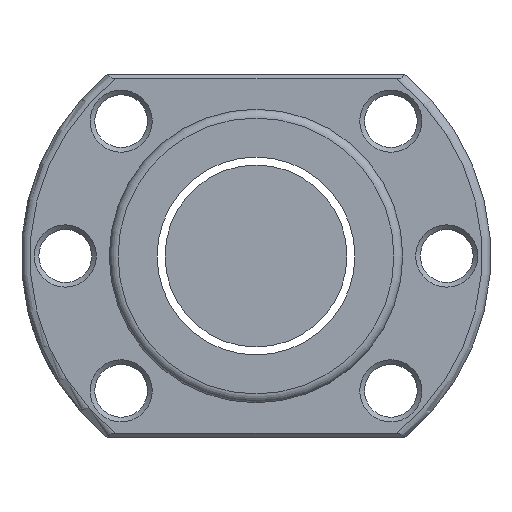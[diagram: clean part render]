
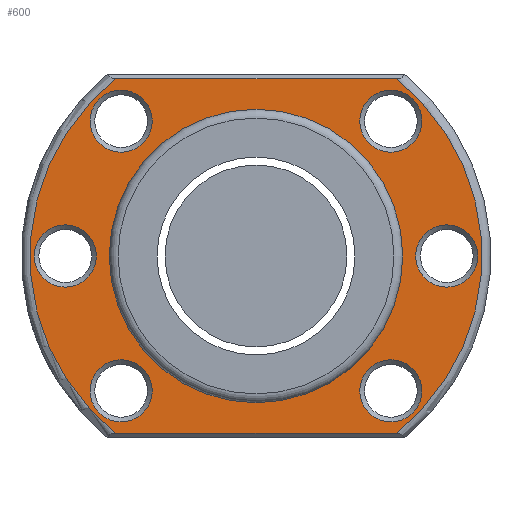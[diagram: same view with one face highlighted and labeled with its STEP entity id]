
A CAD part, left-side view. The second image highlights one B-rep face of the part: STEP entity #600.
In plain terms, the highlighted planar face has unit normal (-1, 0, 0).
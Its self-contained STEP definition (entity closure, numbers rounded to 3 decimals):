
#24 = EDGE_CURVE ( 'NONE', #682, #891, #279, .T. ) ;
#33 = CARTESIAN_POINT ( 'NONE',  ( -101., 22.981, -17.681 ) ) ;
#91 = VERTEX_POINT ( 'NONE', #439 ) ;
#98 = FACE_BOUND ( 'NONE', #1903, .T. ) ;
#169 = FACE_BOUND ( 'NONE', #1653, .T. ) ;
#186 = LINE ( 'NONE', #1170, #2194 ) ;
#279 = CIRCLE ( 'NONE', #1413, 38.5 ) ;
#297 = CARTESIAN_POINT ( 'NONE',  ( -101., -22.981, -17.681 ) ) ;
#325 = AXIS2_PLACEMENT_3D ( 'NONE', #714, #2004, #1957 ) ;
#364 = CARTESIAN_POINT ( 'NONE',  ( -101., 40., 0. ) ) ;
#377 = AXIS2_PLACEMENT_3D ( 'NONE', #1410, #3186, #2938 ) ;
#380 = CIRCLE ( 'NONE', #2601, 5.3 ) ;
#388 = EDGE_LOOP ( 'NONE', ( #1193 ) ) ;
#393 = DIRECTION ( 'NONE',  ( 0., 0., -1. ) ) ;
#397 = DIRECTION ( 'NONE',  ( 1., 0., 0. ) ) ;
#403 = EDGE_CURVE ( 'NONE', #2251, #2251, #1357, .T. ) ;
#429 = FACE_BOUND ( 'NONE', #2690, .T. ) ;
#439 = CARTESIAN_POINT ( 'NONE',  ( -101., -32.5, 5.3 ) ) ;
#504 = EDGE_CURVE ( 'NONE', #2741, #2741, #2498, .T. ) ;
#527 = DIRECTION ( 'NONE',  ( 0., 0., 1. ) ) ;
#530 = EDGE_LOOP ( 'NONE', ( #1802 ) ) ;
#561 = DIRECTION ( 'NONE',  ( 0., 0., 1. ) ) ;
#600 = ADVANCED_FACE ( 'NONE', ( #2876, #169, #98, #2840, #1368, #429, #2855, #1124 ), #3108, .T. ) ;
#682 = VERTEX_POINT ( 'NONE', #1107 ) ;
#700 = VERTEX_POINT ( 'NONE', #1326 ) ;
#703 = EDGE_CURVE ( 'NONE', #3050, #3050, #2240, .T. ) ;
#714 = CARTESIAN_POINT ( 'NONE',  ( -101., 22.981, 22.981 ) ) ;
#780 = CARTESIAN_POINT ( 'NONE',  ( -101., -22.981, 28.281 ) ) ;
#791 = AXIS2_PLACEMENT_3D ( 'NONE', #1968, #1740, #2439 ) ;
#806 = CARTESIAN_POINT ( 'NONE',  ( -101., 0., 0. ) ) ;
#858 = ORIENTED_EDGE ( 'NONE', *, *, #1353, .T. ) ;
#891 = VERTEX_POINT ( 'NONE', #2472 ) ;
#901 = DIRECTION ( 'NONE',  ( -1., 0., 0. ) ) ;
#914 = DIRECTION ( 'NONE',  ( 0., 0., 1. ) ) ;
#999 = DIRECTION ( 'NONE',  ( -1., 0., 0. ) ) ;
#1107 = CARTESIAN_POINT ( 'NONE',  ( -101., 23.879, 30.2 ) ) ;
#1124 = FACE_OUTER_BOUND ( 'NONE', #3081, .T. ) ;
#1146 = VERTEX_POINT ( 'NONE', #2871 ) ;
#1164 = ORIENTED_EDGE ( 'NONE', *, *, #504, .T. ) ;
#1170 = CARTESIAN_POINT ( 'NONE',  ( -101., 40., -30.2 ) ) ;
#1193 = ORIENTED_EDGE ( 'NONE', *, *, #703, .T. ) ;
#1252 = CARTESIAN_POINT ( 'NONE',  ( -101., 22.981, 28.281 ) ) ;
#1263 = CIRCLE ( 'NONE', #791, 5.3 ) ;
#1306 = AXIS2_PLACEMENT_3D ( 'NONE', #1611, #397, #1645 ) ;
#1308 = VECTOR ( 'NONE', #2281, 1000. ) ;
#1326 = CARTESIAN_POINT ( 'NONE',  ( -101., 0., -25. ) ) ;
#1345 = CARTESIAN_POINT ( 'NONE',  ( -101., -32.5, 0. ) ) ;
#1353 = EDGE_CURVE ( 'NONE', #2555, #2555, #2287, .T. ) ;
#1357 = CIRCLE ( 'NONE', #377, 5.3 ) ;
#1368 = FACE_BOUND ( 'NONE', #388, .T. ) ;
#1398 = DIRECTION ( 'NONE',  ( 1., 0., 0. ) ) ;
#1410 = CARTESIAN_POINT ( 'NONE',  ( -101., 22.981, -22.981 ) ) ;
#1413 = AXIS2_PLACEMENT_3D ( 'NONE', #806, #1787, #561 ) ;
#1495 = ORIENTED_EDGE ( 'NONE', *, *, #2181, .T. ) ;
#1530 = CARTESIAN_POINT ( 'NONE',  ( -101., 32.5, 5.3 ) ) ;
#1546 = CARTESIAN_POINT ( 'NONE',  ( -101., 40., 30.2 ) ) ;
#1611 = CARTESIAN_POINT ( 'NONE',  ( -101., 32.5, 0. ) ) ;
#1625 = CARTESIAN_POINT ( 'NONE',  ( -101., 0., 0. ) ) ;
#1645 = DIRECTION ( 'NONE',  ( 0., 0., 1. ) ) ;
#1653 = EDGE_LOOP ( 'NONE', ( #1495 ) ) ;
#1656 = EDGE_CURVE ( 'NONE', #2510, #2510, #1263, .T. ) ;
#1679 = CIRCLE ( 'NONE', #2292, 38.5 ) ;
#1730 = CIRCLE ( 'NONE', #2452, 25. ) ;
#1740 = DIRECTION ( 'NONE',  ( 1., 0., 0. ) ) ;
#1783 = EDGE_CURVE ( 'NONE', #2081, #1146, #1679, .T. ) ;
#1787 = DIRECTION ( 'NONE',  ( -1., 0., 0. ) ) ;
#1802 = ORIENTED_EDGE ( 'NONE', *, *, #2050, .T. ) ;
#1881 = EDGE_CURVE ( 'NONE', #1146, #682, #3176, .T. ) ;
#1903 = EDGE_LOOP ( 'NONE', ( #1164 ) ) ;
#1915 = DIRECTION ( 'NONE',  ( 0., -1., 0. ) ) ;
#1957 = DIRECTION ( 'NONE',  ( 0., 0., 1. ) ) ;
#1968 = CARTESIAN_POINT ( 'NONE',  ( -101., -22.981, -22.981 ) ) ;
#1983 = AXIS2_PLACEMENT_3D ( 'NONE', #364, #901, #2141 ) ;
#2004 = DIRECTION ( 'NONE',  ( 1., 0., 0. ) ) ;
#2050 = EDGE_CURVE ( 'NONE', #700, #700, #1730, .T. ) ;
#2081 = VERTEX_POINT ( 'NONE', #2625 ) ;
#2141 = DIRECTION ( 'NONE',  ( 0., 0., 1. ) ) ;
#2147 = ORIENTED_EDGE ( 'NONE', *, *, #1881, .T. ) ;
#2181 = EDGE_CURVE ( 'NONE', #91, #91, #380, .T. ) ;
#2194 = VECTOR ( 'NONE', #1915, 1000. ) ;
#2239 = DIRECTION ( 'NONE',  ( 0., 0., 1. ) ) ;
#2240 = CIRCLE ( 'NONE', #1306, 5.3 ) ;
#2251 = VERTEX_POINT ( 'NONE', #33 ) ;
#2271 = CARTESIAN_POINT ( 'NONE',  ( -101., -22.981, 22.981 ) ) ;
#2281 = DIRECTION ( 'NONE',  ( 0., 1., 0. ) ) ;
#2287 = CIRCLE ( 'NONE', #325, 5.3 ) ;
#2288 = DIRECTION ( 'NONE',  ( 1., 0., 0. ) ) ;
#2292 = AXIS2_PLACEMENT_3D ( 'NONE', #2947, #999, #2239 ) ;
#2359 = EDGE_CURVE ( 'NONE', #891, #2081, #186, .T. ) ;
#2404 = ORIENTED_EDGE ( 'NONE', *, *, #403, .T. ) ;
#2412 = ORIENTED_EDGE ( 'NONE', *, *, #24, .T. ) ;
#2439 = DIRECTION ( 'NONE',  ( 0., 0., 1. ) ) ;
#2452 = AXIS2_PLACEMENT_3D ( 'NONE', #1625, #2890, #393 ) ;
#2472 = CARTESIAN_POINT ( 'NONE',  ( -101., 23.879, -30.2 ) ) ;
#2498 = CIRCLE ( 'NONE', #3019, 5.3 ) ;
#2510 = VERTEX_POINT ( 'NONE', #297 ) ;
#2555 = VERTEX_POINT ( 'NONE', #1252 ) ;
#2601 = AXIS2_PLACEMENT_3D ( 'NONE', #1345, #1398, #914 ) ;
#2625 = CARTESIAN_POINT ( 'NONE',  ( -101., -23.879, -30.2 ) ) ;
#2690 = EDGE_LOOP ( 'NONE', ( #2404 ) ) ;
#2741 = VERTEX_POINT ( 'NONE', #780 ) ;
#2782 = EDGE_LOOP ( 'NONE', ( #2883 ) ) ;
#2840 = FACE_BOUND ( 'NONE', #3097, .T. ) ;
#2855 = FACE_BOUND ( 'NONE', #530, .T. ) ;
#2871 = CARTESIAN_POINT ( 'NONE',  ( -101., -23.879, 30.2 ) ) ;
#2876 = FACE_BOUND ( 'NONE', #2782, .T. ) ;
#2883 = ORIENTED_EDGE ( 'NONE', *, *, #1656, .T. ) ;
#2885 = ORIENTED_EDGE ( 'NONE', *, *, #1783, .T. ) ;
#2890 = DIRECTION ( 'NONE',  ( 1., 0., 0. ) ) ;
#2938 = DIRECTION ( 'NONE',  ( 0., 0., 1. ) ) ;
#2947 = CARTESIAN_POINT ( 'NONE',  ( -101., 0., 0. ) ) ;
#3019 = AXIS2_PLACEMENT_3D ( 'NONE', #2271, #2288, #527 ) ;
#3031 = ORIENTED_EDGE ( 'NONE', *, *, #2359, .T. ) ;
#3050 = VERTEX_POINT ( 'NONE', #1530 ) ;
#3081 = EDGE_LOOP ( 'NONE', ( #2412, #3031, #2885, #2147 ) ) ;
#3097 = EDGE_LOOP ( 'NONE', ( #858 ) ) ;
#3108 = PLANE ( 'NONE',  #1983 ) ;
#3176 = LINE ( 'NONE', #1546, #1308 ) ;
#3186 = DIRECTION ( 'NONE',  ( 1., 0., 0. ) ) ;
